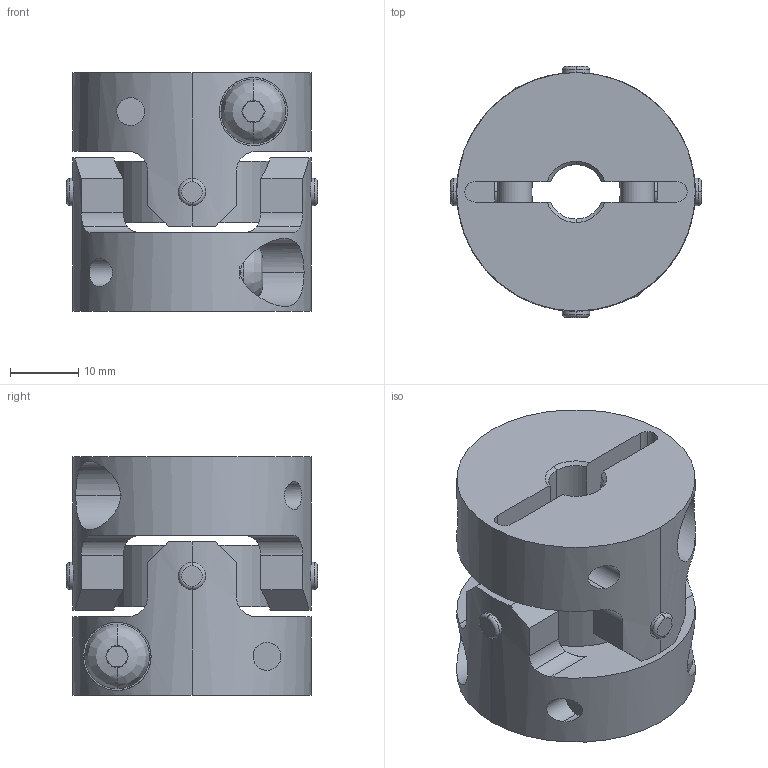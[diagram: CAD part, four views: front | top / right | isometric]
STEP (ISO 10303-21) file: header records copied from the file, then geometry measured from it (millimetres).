
FILE_DESCRIPTION((''),'2;1');
FILE_NAME('UA-35C-8×16.stp','2013-05-22T08:02:02',(''),(''),'AutoCAD STEP 2000i','AutoCAD 2000i',', , ');
FILE_SCHEMA(('CONFIG_CONTROL_DESIGN'));
Length unit declared in the file: millimetre
Products named in the file (7): UA-35C-8×14; 忣兜1; UA-3502-D14; BTN-M5; UA-3502-D08-1; UA-3502-D08; UA35-SEN
Assembly tree (8 placements, depth 3):
  UA-35C-8×14
    忣兜1
    UA-3502-D14
      BTN-M5
    UA-3502-D08-1
      BTN-M5
    UA-3502-D08
      BTN-M5
    UA35-SEN
Bounding box: 36.83 x 36.83 x 35 mm (x, y, z)
Volume: 22168.2 mm3; surface area: 11710.7 mm2
Topology: 1 solids, 1 shells, 250 faces, 646 edges, 408 vertices
Faces by surface type: plane 122, cylinder 96, cone 16, bspline 8, torus 8
Entity records: 9661 total; most frequent: CARTESIAN_POINT 3385, DIRECTION 1292, ORIENTED_EDGE 1292, EDGE_CURVE 646, AXIS2_PLACEMENT_3D 499, VERTEX_POINT 408, VECTOR 294, LINE 294
